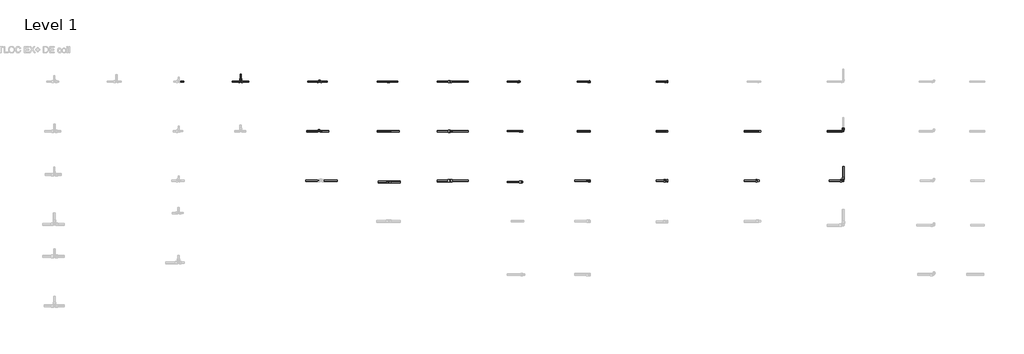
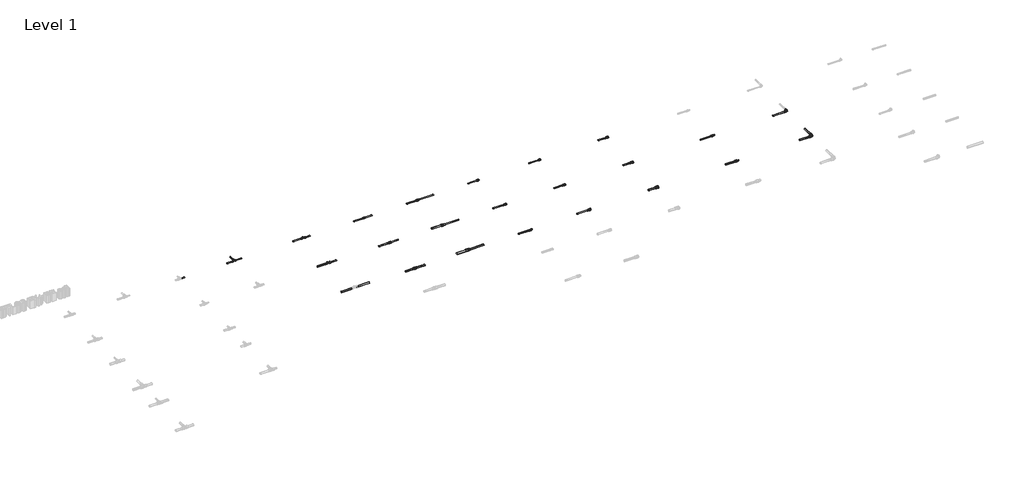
# One storey, part 14 of 16: 36 pipe segments, 22 pipe fittings.
"""IFC4 building model written with IfcOpenShell, lengths in millimetres."""

from ifc_helpers import new_model, si_unit, point, frame, frame_2d, origin, place, context, project, spatial, circle_curve, trimmed, segment, composite_curve, outline, extrude, transform, mapped, element, save
from components import pipe_fitting_41a35f07, pipe_fitting_bbd05bdc, pipe_fitting_792dd94b, pipe_fitting_a5f7744a, pipe_fitting_027be69e, pipe_fitting_e3b44c6b, pipe_fitting_f9f4b2e9, pipe_fitting_1d22680d, pipe_fitting_5e3c5755, pipe_fitting_6195120d, pipe_fitting_382bea88, pipe_fitting_a8691e68, pipe_fitting_006a9863, pipe_fitting_3eb6683a, pipe_fitting_836a2278, pipe_fitting_164b9098, pipe_fitting_15655edc, pipe_fitting_ca26b6f5, pipe_fitting_c518d98d, pipe_fitting_b7086254, pipe_fitting_f7ee4d9f, pipe_fitting_f8d70d0e

model = new_model("IFC4")

# Units and contexts
model_context = context("Model", 3, world=origin())
ifc_project = project(units=[si_unit("LENGTHUNIT", "METRE", prefix="MILLI")], contexts=[model_context])

# Site, building, storey
site = spatial("IfcSite", under=ifc_project)
building = spatial("IfcBuilding", under=site)
storey = spatial("IfcBuildingStorey", under=building, Name="Level 1", Elevation=0.0)

# Pipe fittings
placement = place(None, origin())
pipe_fitting_shape = pipe_fitting_41a35f07(model_context)
element("IfcPipeFitting", 1, ObjectType="FASTLOC_Adapter_RX+, with external thread : FSL A C external EX+ DE", at=placement, inside=storey, context=model_context, shape_type="MappedRepresentation", body=[
    mapped(pipe_fitting_shape, transform((37480.5062975, 1212.3520033, 0.0), x_axis=(1.0, 0.0, 0.0), y_axis=(0.0, 1.0, 0.0), z_axis=(0.0, 0.0, 1.0))),
])
pipe_fitting_2_shape = pipe_fitting_bbd05bdc(model_context)
element("IfcPipeFitting", 2, ObjectType="FASTLOC_Adapter_RX+, with external thread : FSL A C external EX+ DE", at=placement, inside=storey, context=model_context, shape_type="MappedRepresentation", body=[
    mapped(pipe_fitting_2_shape, transform((37490.6359613, 393.645754, 0.0), x_axis=(1.0, 0.0, 0.0), y_axis=(0.0, 1.0, 0.0), z_axis=(0.0, 0.0, 1.0))),
])
pipe_fitting_3_shape = pipe_fitting_792dd94b(model_context)
element("IfcPipeFitting", 3, ObjectType="FASTLOC_Corner EX+ : FSL C EX+ DE", at=placement, inside=storey, context=model_context, shape_type="MappedRepresentation", body=[
    mapped(pipe_fitting_3_shape, transform((42675.3824015, 1212.3520033, 0.0), x_axis=(1.0, 0.0, 0.0), y_axis=(0.0, 1.0, 0.0), z_axis=(0.0, 0.0, 1.0))),
])
pipe_fitting_4_shape = pipe_fitting_a5f7744a(model_context)
element("IfcPipeFitting", 4, ObjectType="FASTLOC_Corner EX+ : FSL C EX+ DE", at=placement, inside=storey, context=model_context, shape_type="MappedRepresentation", body=[
    mapped(pipe_fitting_4_shape, transform((42675.3824015, 412.3520033, 0.0), x_axis=(1.0, 0.0, 0.0), y_axis=(0.0, 1.0, 0.0), z_axis=(0.0, 0.0, 1.0))),
])
pipe_fitting_5_shape = pipe_fitting_027be69e(model_context)
element("IfcPipeFitting", 5, ObjectType="FASTLOC_Coupling equal EX+ : FSL C EQ EX+ DE", at=placement, inside=storey, context=model_context, shape_type="MappedRepresentation", body=[
    mapped(pipe_fitting_5_shape, transform((35347.6401575, 2012.3520033, 0.0), x_axis=(1.0, 0.0, 0.0), y_axis=(0.0, 1.0, 0.0), z_axis=(0.0, 0.0, 1.0))),
])
pipe_fitting_6_shape = pipe_fitting_e3b44c6b(model_context)
element("IfcPipeFitting", 6, ObjectType="FASTLOC_T-piece internal thread EX+ : FSL T thread EX+ DE", at=placement, inside=storey, context=model_context, shape_type="MappedRepresentation", body=[
    mapped(pipe_fitting_6_shape, transform((34223.972973, 1212.3520033, 0.0), x_axis=(1.0, 0.0, 0.0), y_axis=(0.0, 1.0, 0.0), z_axis=(0.0, 0.0, 1.0))),
])
pipe_fitting_7_shape = pipe_fitting_f9f4b2e9(model_context)
element("IfcPipeFitting", 7, ObjectType="FASTLOC_Coupling reduced EX+ : FSL C RE EX+ DE", at=placement, inside=storey, context=model_context, shape_type="MappedRepresentation", body=[
    mapped(pipe_fitting_7_shape, transform((36342.2258143, 1212.3520033, 0.0), x_axis=(1.0, 0.0, 0.0), y_axis=(0.0, 1.0, 0.0), z_axis=(0.0, 0.0, 1.0))),
])
pipe_fitting_8_shape = pipe_fitting_1d22680d(model_context)
element("IfcPipeFitting", 8, ObjectType="FASTLOC_Coupling equal EX+ : FSL C EQ EX+ DE", at=placement, inside=storey, context=model_context, shape_type="MappedRepresentation", body=[
    mapped(pipe_fitting_8_shape, transform((35347.6401575, 1212.3520033, 0.0), x_axis=(1.0, 0.0, 0.0), y_axis=(0.0, 1.0, 0.0), z_axis=(0.0, 0.0, 1.0))),
])
pipe_fitting_9_shape = pipe_fitting_5e3c5755(model_context)
element("IfcPipeFitting", 9, ObjectType="FASTLOC_Coupling equal EX+ : FSL C EQ EX+ DE", at=placement, inside=storey, context=model_context, shape_type="MappedRepresentation", body=[
    mapped(pipe_fitting_9_shape, transform((35347.6401575, 393.645754, 0.0), x_axis=(1.0, 0.0, 0.0), y_axis=(0.0, 1.0, 0.0), z_axis=(0.0, 0.0, 1.0))),
])
pipe_fitting_10_shape = pipe_fitting_6195120d(model_context)
element("IfcPipeFitting", 10, ObjectType="FASTLOC_Coupling reduced EX+ : FSL C RE EX+ DE", at=placement, inside=storey, context=model_context, shape_type="MappedRepresentation", body=[
    mapped(pipe_fitting_10_shape, transform((36342.2258143, 2012.3520033, 0.0), x_axis=(1.0, 0.0, 0.0), y_axis=(0.0, 1.0, 0.0), z_axis=(0.0, 0.0, 1.0))),
])
pipe_fitting_11_shape = pipe_fitting_382bea88(model_context)
element("IfcPipeFitting", 11, ObjectType="FASTLOC_Coupling reduced EX+ : FSL C RE EX+ DE", at=placement, inside=storey, context=model_context, shape_type="MappedRepresentation", body=[
    mapped(pipe_fitting_11_shape, transform((36342.2258143, 412.3520033, 0.0), x_axis=(1.0, 0.0, 0.0), y_axis=(0.0, 1.0, 0.0), z_axis=(0.0, 0.0, 1.0))),
])
pipe_fitting_12_shape = pipe_fitting_a8691e68(model_context)
element("IfcPipeFitting", 12, ObjectType="FASTLOC_Adapter_RX+, with external thread : FSL A C external EX+ DE", at=placement, inside=storey, context=model_context, shape_type="MappedRepresentation", body=[
    mapped(pipe_fitting_12_shape, transform((37445.0524741, 2012.3520033, 0.0), x_axis=(1.0, 0.0, 0.0), y_axis=(0.0, 1.0, 0.0), z_axis=(0.0, 0.0, 1.0))),
])
pipe_fitting_13_shape = pipe_fitting_006a9863(model_context)
element("IfcPipeFitting", 13, ObjectType="FASTLOC_T-piece_EX+ : FSL T-Piece EX+ DE", at=placement, inside=storey, context=model_context, shape_type="MappedRepresentation", body=[
    mapped(pipe_fitting_13_shape, transform((32962.9146925, 2012.3520033, 0.0), x_axis=(1.0, 0.0, 0.0), y_axis=(0.0, 1.0, 0.0), z_axis=(0.0, 0.0, 1.0))),
])
pipe_fitting_14_shape = pipe_fitting_3eb6683a(model_context)
element("IfcPipeFitting", 14, ObjectType="FASTLOC_T-piece internal thread EX+ : FSL T thread EX+ DE", at=placement, inside=storey, context=model_context, shape_type="MappedRepresentation", body=[
    mapped(pipe_fitting_14_shape, transform((34234.0203333, 2012.3520033, 0.0), x_axis=(1.0, 0.0, 0.0), y_axis=(0.0, 1.0, 0.0), z_axis=(0.0, 0.0, 1.0))),
])
pipe_fitting_15_shape = pipe_fitting_836a2278(model_context)
element("IfcPipeFitting", 15, ObjectType="FASTLOC_Adapter_EX+, with internal thread : FSL A internal DE", at=placement, inside=storey, context=model_context, shape_type="MappedRepresentation", body=[
    mapped(pipe_fitting_15_shape, transform((38579.5143796, 2012.3520033, 0.0), x_axis=(1.0, 0.0, 0.0), y_axis=(0.0, 1.0, 0.0), z_axis=(0.0, 0.0, 1.0))),
])
pipe_fitting_16_shape = pipe_fitting_164b9098(model_context)
element("IfcPipeFitting", 16, ObjectType="FASTLOC Copper press adapter RX+ : FSL RX+ DE", at=placement, inside=storey, context=model_context, shape_type="MappedRepresentation", body=[
    mapped(pipe_fitting_16_shape, transform((41315.3824015, 1212.3520033, 0.0), x_axis=(1.0, 0.0, 0.0), y_axis=(0.0, 1.0, 0.0), z_axis=(0.0, 0.0, 1.0))),
])
pipe_fitting_17_shape = pipe_fitting_15655edc(model_context)
element("IfcPipeFitting", 17, ObjectType="FASTLOC Copper press adapter RX+ : FSL RX+ DE", at=placement, inside=storey, context=model_context, shape_type="MappedRepresentation", body=[
    mapped(pipe_fitting_17_shape, transform((41295.3824015, 412.3520033, 0.0), x_axis=(1.0, 0.0, 0.0), y_axis=(0.0, 1.0, 0.0), z_axis=(0.0, 0.0, 1.0))),
])
pipe_fitting_18_shape = pipe_fitting_ca26b6f5(model_context)
element("IfcPipeFitting", 18, ObjectType="FASTLOC_Adapter with union nut EX+ : FSL A union nut EX+ DE", at=placement, inside=storey, context=model_context, shape_type="MappedRepresentation", body=[
    mapped(pipe_fitting_18_shape, transform((39818.3503777, 2012.3520033, 0.0), x_axis=(1.0, 0.0, 0.0), y_axis=(0.0, 1.0, 0.0), z_axis=(0.0, 0.0, 1.0))),
])
pipe_fitting_19_shape = pipe_fitting_c518d98d(model_context)
element("IfcPipeFitting", 19, ObjectType="FASTLOC_Adapter with union nut EX+ : FSL A union nut EX+ DE", at=placement, inside=storey, context=model_context, shape_type="MappedRepresentation", body=[
    mapped(pipe_fitting_19_shape, transform((39818.3503777, 1212.3520033, 0.0), x_axis=(1.0, 0.0, 0.0), y_axis=(0.0, 1.0, 0.0), z_axis=(0.0, 0.0, 1.0))),
])
pipe_fitting_20_shape = pipe_fitting_b7086254(model_context)
element("IfcPipeFitting", 20, ObjectType="FASTLOC_Adapter with union nut EX+ : FSL A union nut EX+ DE", at=placement, inside=storey, context=model_context, shape_type="MappedRepresentation", body=[
    mapped(pipe_fitting_20_shape, transform((39818.3503777, 412.3520033, 0.0), x_axis=(1.0, 0.0, 0.0), y_axis=(0.0, 1.0, 0.0), z_axis=(0.0, 0.0, 1.0))),
])
pipe_fitting_21_shape = pipe_fitting_f7ee4d9f(model_context)
element("IfcPipeFitting", 21, ObjectType="FASTLOC_Adapter_EX+, with internal thread : FSL A internal DE", at=placement, inside=storey, context=model_context, shape_type="MappedRepresentation", body=[
    mapped(pipe_fitting_21_shape, transform((38579.5143796, 1212.3520033, 0.0), x_axis=(1.0, 0.0, 0.0), y_axis=(0.0, 1.0, 0.0), z_axis=(0.0, 0.0, 1.0))),
])
pipe_fitting_22_shape = pipe_fitting_f8d70d0e(model_context)
element("IfcPipeFitting", 22, ObjectType="FASTLOC_Adapter_EX+, with internal thread : FSL A internal DE", at=placement, inside=storey, context=model_context, shape_type="MappedRepresentation", body=[
    mapped(pipe_fitting_22_shape, transform((38579.5143796, 412.3520033, 0.0), x_axis=(1.0, 0.0, 0.0), y_axis=(0.0, 1.0, 0.0), z_axis=(0.0, 0.0, 1.0))),
])

# Pipe segments
element("IfcPipeSegment", 23, ObjectType="FASTLOC EX+ ML DE coil", at=placement, inside=storey, context=model_context, shape_type="SweptSolid", body=[
    extrude(outline(composite_curve([segment(trimmed(circle_curve(frame_2d((1212.3520033, 0.0)), 10.0), [point((1222.3520033, 0.0))], [point((1212.3520033, -10.0))], False, "CARTESIAN"), True, "CONTINUOUS"), segment(trimmed(circle_curve(frame_2d((1212.3520033, 0.0)), 10.0), [point((1212.3520033, -10.0))], [point((1202.3520033, 0.0))], False, "CARTESIAN"), True, "CONTINUOUS"), segment(trimmed(circle_curve(frame_2d((1212.3520033, 0.0)), 10.0), [point((1202.3520033, 0.0))], [point((1212.3520033, 10.0))], False, "CARTESIAN"), True, "CONTINUOUS"), segment(trimmed(circle_curve(frame_2d((1212.3520033, 0.0)), 10.0), [point((1212.3520033, 10.0))], [point((1222.3520033, 0.0))], False, "CARTESIAN"), True, "CONTINUOUS")], self_intersect=False)), frame((42413.2824015, 0.0, 0.0), z_axis=(1.0, 0.0, 0.0), x_axis=(0.0, 1.0, 0.0)), (0.0, 0.0, 1.0), 237.5),
])
element("IfcPipeSegment", 24, ObjectType="FASTLOC EX+ ML DE coil", at=placement, inside=storey, context=model_context, shape_type="SweptSolid", body=[
    extrude(outline(composite_curve([segment(trimmed(circle_curve(frame_2d((0.0, 42675.3824015)), 12.5), [point((0.0, 42687.8824015))], [point((12.5, 42675.3824015))], False, "CARTESIAN"), True, "CONTINUOUS"), segment(trimmed(circle_curve(frame_2d((0.0, 42675.3824015)), 12.5), [point((12.5, 42675.3824015))], [point((0.0, 42662.8824015))], False, "CARTESIAN"), True, "CONTINUOUS"), segment(trimmed(circle_curve(frame_2d((0.0, 42675.3824015)), 12.5), [point((0.0, 42662.8824015))], [point((-12.5, 42675.3824015))], False, "CARTESIAN"), True, "CONTINUOUS"), segment(trimmed(circle_curve(frame_2d((0.0, 42675.3824015)), 12.5), [point((-12.5, 42675.3824015))], [point((0.0, 42687.8824015))], False, "CARTESIAN"), True, "CONTINUOUS")], self_intersect=False)), frame((0.0, 441.3520033, 0.0), z_axis=(0.0, 1.0, 0.0), x_axis=(0.0, 0.0, 1.0)), (0.0, 0.0, 1.0), 200.0),
])
element("IfcPipeSegment", 25, ObjectType="FASTLOC EX+ ML DE coil", at=placement, inside=storey, context=model_context, shape_type="SweptSolid", body=[
    extrude(outline(composite_curve([segment(trimmed(circle_curve(frame_2d((412.3520033, 0.0)), 12.5), [point((424.8520033, 0.0))], [point((412.3520033, -12.5))], False, "CARTESIAN"), True, "CONTINUOUS"), segment(trimmed(circle_curve(frame_2d((412.3520033, 0.0)), 12.5), [point((412.3520033, -12.5))], [point((399.8520033, 0.0))], False, "CARTESIAN"), True, "CONTINUOUS"), segment(trimmed(circle_curve(frame_2d((412.3520033, 0.0)), 12.5), [point((399.8520033, 0.0))], [point((412.3520033, 12.5))], False, "CARTESIAN"), True, "CONTINUOUS"), segment(trimmed(circle_curve(frame_2d((412.3520033, 0.0)), 12.5), [point((412.3520033, 12.5))], [point((424.8520033, 0.0))], False, "CARTESIAN"), True, "CONTINUOUS")], self_intersect=False)), frame((42446.3824015, 0.0, 0.0), z_axis=(1.0, 0.0, 0.0), x_axis=(0.0, 1.0, 0.0)), (0.0, 0.0, 1.0), 200.0),
])
element("IfcPipeSegment", 26, ObjectType="FASTLOC EX+ ML DE coil", at=placement, inside=storey, context=model_context, shape_type="SweptSolid", body=[
    extrude(outline(composite_curve([segment(trimmed(circle_curve(frame_2d((412.3520033, 0.0)), 12.5), [point((424.8520033, 0.0))], [point((412.3520033, -12.5))], False, "CARTESIAN"), True, "CONTINUOUS"), segment(trimmed(circle_curve(frame_2d((412.3520033, 0.0)), 12.5), [point((412.3520033, -12.5))], [point((399.8520033, 0.0))], False, "CARTESIAN"), True, "CONTINUOUS"), segment(trimmed(circle_curve(frame_2d((412.3520033, 0.0)), 12.5), [point((399.8520033, 0.0))], [point((412.3520033, 12.5))], False, "CARTESIAN"), True, "CONTINUOUS"), segment(trimmed(circle_curve(frame_2d((412.3520033, 0.0)), 12.5), [point((412.3520033, 12.5))], [point((424.8520033, 0.0))], False, "CARTESIAN"), True, "CONTINUOUS")], self_intersect=False)), frame((41082.2824015, 0.0, 0.0), z_axis=(1.0, 0.0, 0.0), x_axis=(0.0, 1.0, 0.0)), (0.0, 0.0, 1.0), 202.5),
])
element("IfcPipeSegment", 27, ObjectType="FASTLOC EX+ ML DE coil", at=placement, inside=storey, context=model_context, shape_type="SweptSolid", body=[
    extrude(outline(composite_curve([segment(trimmed(circle_curve(frame_2d((1212.3520033, 0.0)), 10.0), [point((1222.3520033, 0.0))], [point((1212.3520033, -10.0))], False, "CARTESIAN"), True, "CONTINUOUS"), segment(trimmed(circle_curve(frame_2d((1212.3520033, 0.0)), 10.0), [point((1212.3520033, -10.0))], [point((1202.3520033, 0.0))], False, "CARTESIAN"), True, "CONTINUOUS"), segment(trimmed(circle_curve(frame_2d((1212.3520033, 0.0)), 10.0), [point((1202.3520033, 0.0))], [point((1212.3520033, 10.0))], False, "CARTESIAN"), True, "CONTINUOUS"), segment(trimmed(circle_curve(frame_2d((1212.3520033, 0.0)), 10.0), [point((1212.3520033, 10.0))], [point((1222.3520033, 0.0))], False, "CARTESIAN"), True, "CONTINUOUS")], self_intersect=False)), frame((41082.2824015, 0.0, 0.0), z_axis=(1.0, 0.0, 0.0), x_axis=(0.0, 1.0, 0.0)), (0.0, 0.0, 1.0), 223.9),
])
element("IfcPipeSegment", 28, ObjectType="FASTLOC EX+ ML DE coil", at=placement, inside=storey, context=model_context, shape_type="SweptSolid", body=[
    extrude(outline(composite_curve([segment(trimmed(circle_curve(frame_2d((2012.3520033, 0.0)), 8.0), [point((2020.3520033, 0.0))], [point((2012.3520033, -8.0))], False, "CARTESIAN"), True, "CONTINUOUS"), segment(trimmed(circle_curve(frame_2d((2012.3520033, 0.0)), 8.0), [point((2012.3520033, -8.0))], [point((2004.3520033, 0.0))], False, "CARTESIAN"), True, "CONTINUOUS"), segment(trimmed(circle_curve(frame_2d((2012.3520033, 0.0)), 8.0), [point((2004.3520033, 0.0))], [point((2012.3520033, 8.0))], False, "CARTESIAN"), True, "CONTINUOUS"), segment(trimmed(circle_curve(frame_2d((2012.3520033, 0.0)), 8.0), [point((2012.3520033, 8.0))], [point((2020.3520033, 0.0))], False, "CARTESIAN"), True, "CONTINUOUS")], self_intersect=False)), frame((39659.3503777, 0.0, 0.0), z_axis=(1.0, 0.0, 0.0), x_axis=(0.0, 1.0, 0.0)), (0.0, 0.0, 1.0), 150.0),
])
element("IfcPipeSegment", 29, ObjectType="FASTLOC EX+ ML DE coil", at=placement, inside=storey, context=model_context, shape_type="SweptSolid", body=[
    extrude(outline(composite_curve([segment(trimmed(circle_curve(frame_2d((1212.3520033, 0.0)), 10.0), [point((1222.3520033, 0.0))], [point((1212.3520033, -10.0))], False, "CARTESIAN"), True, "CONTINUOUS"), segment(trimmed(circle_curve(frame_2d((1212.3520033, 0.0)), 10.0), [point((1212.3520033, -10.0))], [point((1202.3520033, 0.0))], False, "CARTESIAN"), True, "CONTINUOUS"), segment(trimmed(circle_curve(frame_2d((1212.3520033, 0.0)), 10.0), [point((1202.3520033, 0.0))], [point((1212.3520033, 10.0))], False, "CARTESIAN"), True, "CONTINUOUS"), segment(trimmed(circle_curve(frame_2d((1212.3520033, 0.0)), 10.0), [point((1212.3520033, 10.0))], [point((1222.3520033, 0.0))], False, "CARTESIAN"), True, "CONTINUOUS")], self_intersect=False)), frame((39659.3503777, 0.0, 0.0), z_axis=(1.0, 0.0, 0.0), x_axis=(0.0, 1.0, 0.0)), (0.0, 0.0, 1.0), 150.0),
])
element("IfcPipeSegment", 30, ObjectType="FASTLOC EX+ ML DE coil", at=placement, inside=storey, context=model_context, shape_type="SweptSolid", body=[
    extrude(outline(composite_curve([segment(trimmed(circle_curve(frame_2d((412.3520033, 0.0)), 12.5), [point((424.8520033, 0.0))], [point((412.3520033, -12.5))], False, "CARTESIAN"), True, "CONTINUOUS"), segment(trimmed(circle_curve(frame_2d((412.3520033, 0.0)), 12.5), [point((412.3520033, -12.5))], [point((399.8520033, 0.0))], False, "CARTESIAN"), True, "CONTINUOUS"), segment(trimmed(circle_curve(frame_2d((412.3520033, 0.0)), 12.5), [point((399.8520033, 0.0))], [point((412.3520033, 12.5))], False, "CARTESIAN"), True, "CONTINUOUS"), segment(trimmed(circle_curve(frame_2d((412.3520033, 0.0)), 12.5), [point((412.3520033, 12.5))], [point((424.8520033, 0.0))], False, "CARTESIAN"), True, "CONTINUOUS")], self_intersect=False)), frame((39659.3503777, 0.0, 0.0), z_axis=(1.0, 0.0, 0.0), x_axis=(0.0, 1.0, 0.0)), (0.0, 0.0, 1.0), 148.7),
])
element("IfcPipeSegment", 31, ObjectType="FASTLOC EX+ ML DE coil", at=placement, inside=storey, context=model_context, shape_type="SweptSolid", body=[
    extrude(outline(composite_curve([segment(trimmed(circle_curve(frame_2d((2012.3520033, 0.0)), 8.0), [point((2020.3520033, 0.0))], [point((2012.3520033, -8.0))], False, "CARTESIAN"), True, "CONTINUOUS"), segment(trimmed(circle_curve(frame_2d((2012.3520033, 0.0)), 8.0), [point((2012.3520033, -8.0))], [point((2004.3520033, 0.0))], False, "CARTESIAN"), True, "CONTINUOUS"), segment(trimmed(circle_curve(frame_2d((2012.3520033, 0.0)), 8.0), [point((2004.3520033, 0.0))], [point((2012.3520033, 8.0))], False, "CARTESIAN"), True, "CONTINUOUS"), segment(trimmed(circle_curve(frame_2d((2012.3520033, 0.0)), 8.0), [point((2012.3520033, 8.0))], [point((2020.3520033, 0.0))], False, "CARTESIAN"), True, "CONTINUOUS")], self_intersect=False)), frame((38387.1143796, 0.0, 0.0), z_axis=(1.0, 0.0, 0.0), x_axis=(0.0, 1.0, 0.0)), (0.0, 0.0, 1.0), 180.0),
])
element("IfcPipeSegment", 32, ObjectType="FASTLOC EX+ ML DE coil", at=placement, inside=storey, context=model_context, shape_type="SweptSolid", body=[
    extrude(outline(composite_curve([segment(trimmed(circle_curve(frame_2d((1212.3520033, 0.0)), 10.0), [point((1222.3520033, 0.0))], [point((1212.3520033, -10.0))], False, "CARTESIAN"), True, "CONTINUOUS"), segment(trimmed(circle_curve(frame_2d((1212.3520033, 0.0)), 10.0), [point((1212.3520033, -10.0))], [point((1202.3520033, 0.0))], False, "CARTESIAN"), True, "CONTINUOUS"), segment(trimmed(circle_curve(frame_2d((1212.3520033, 0.0)), 10.0), [point((1202.3520033, 0.0))], [point((1212.3520033, 10.0))], False, "CARTESIAN"), True, "CONTINUOUS"), segment(trimmed(circle_curve(frame_2d((1212.3520033, 0.0)), 10.0), [point((1212.3520033, 10.0))], [point((1222.3520033, 0.0))], False, "CARTESIAN"), True, "CONTINUOUS")], self_intersect=False)), frame((38387.1143796, 0.0, 0.0), z_axis=(1.0, 0.0, 0.0), x_axis=(0.0, 1.0, 0.0)), (0.0, 0.0, 1.0), 180.7),
])
element("IfcPipeSegment", 33, ObjectType="FASTLOC EX+ ML DE coil", at=placement, inside=storey, context=model_context, shape_type="SweptSolid", body=[
    extrude(outline(composite_curve([segment(trimmed(circle_curve(frame_2d((412.3520033, 0.0)), 10.0), [point((422.3520033, 0.0))], [point((412.3520033, -10.0))], False, "CARTESIAN"), True, "CONTINUOUS"), segment(trimmed(circle_curve(frame_2d((412.3520033, 0.0)), 10.0), [point((412.3520033, -10.0))], [point((402.3520033, 0.0))], False, "CARTESIAN"), True, "CONTINUOUS"), segment(trimmed(circle_curve(frame_2d((412.3520033, 0.0)), 10.0), [point((402.3520033, 0.0))], [point((412.3520033, 10.0))], False, "CARTESIAN"), True, "CONTINUOUS"), segment(trimmed(circle_curve(frame_2d((412.3520033, 0.0)), 10.0), [point((412.3520033, 10.0))], [point((422.3520033, 0.0))], False, "CARTESIAN"), True, "CONTINUOUS")], self_intersect=False)), frame((38346.2143796, 0.0, 0.0), z_axis=(1.0, 0.0, 0.0), x_axis=(0.0, 1.0, 0.0)), (0.0, 0.0, 1.0), 220.0),
])
element("IfcPipeSegment", 34, ObjectType="FASTLOC EX+ ML DE coil", at=placement, inside=storey, context=model_context, shape_type="SweptSolid", body=[
    extrude(outline(composite_curve([segment(trimmed(circle_curve(frame_2d((393.645754, 0.0)), 10.0), [point((403.645754, 0.0))], [point((393.645754, -10.0))], False, "CARTESIAN"), True, "CONTINUOUS"), segment(trimmed(circle_curve(frame_2d((393.645754, 0.0)), 10.0), [point((393.645754, -10.0))], [point((383.645754, 0.0))], False, "CARTESIAN"), True, "CONTINUOUS"), segment(trimmed(circle_curve(frame_2d((393.645754, 0.0)), 10.0), [point((383.645754, 0.0))], [point((393.645754, 10.0))], False, "CARTESIAN"), True, "CONTINUOUS"), segment(trimmed(circle_curve(frame_2d((393.645754, 0.0)), 10.0), [point((393.645754, 10.0))], [point((403.645754, 0.0))], False, "CARTESIAN"), True, "CONTINUOUS")], self_intersect=False)), frame((37261.9359613, 0.0, 0.0), z_axis=(1.0, 0.0, 0.0), x_axis=(0.0, 1.0, 0.0)), (0.0, 0.0, 1.0), 220.0),
])
element("IfcPipeSegment", 35, ObjectType="FASTLOC EX+ ML DE coil", at=placement, inside=storey, context=model_context, shape_type="SweptSolid", body=[
    extrude(outline(composite_curve([segment(trimmed(circle_curve(frame_2d((1212.3520033, 0.0)), 8.0), [point((1220.3520033, 0.0))], [point((1212.3520033, -8.0))], False, "CARTESIAN"), True, "CONTINUOUS"), segment(trimmed(circle_curve(frame_2d((1212.3520033, 0.0)), 8.0), [point((1212.3520033, -8.0))], [point((1204.3520033, 0.0))], False, "CARTESIAN"), True, "CONTINUOUS"), segment(trimmed(circle_curve(frame_2d((1212.3520033, 0.0)), 8.0), [point((1204.3520033, 0.0))], [point((1212.3520033, 8.0))], False, "CARTESIAN"), True, "CONTINUOUS"), segment(trimmed(circle_curve(frame_2d((1212.3520033, 0.0)), 8.0), [point((1212.3520033, 8.0))], [point((1220.3520033, 0.0))], False, "CARTESIAN"), True, "CONTINUOUS")], self_intersect=False)), frame((37261.9359613, 0.0, 0.0), z_axis=(1.0, 0.0, 0.0), x_axis=(0.0, 1.0, 0.0)), (0.0, 0.0, 1.0), 209.6703362),
])
element("IfcPipeSegment", 36, ObjectType="FASTLOC EX+ ML DE coil", at=placement, inside=storey, context=model_context, shape_type="SweptSolid", body=[
    extrude(outline(composite_curve([segment(trimmed(circle_curve(frame_2d((2012.3520033, 0.0)), 8.0), [point((2020.3520033, 0.0))], [point((2012.3520033, -8.0))], False, "CARTESIAN"), True, "CONTINUOUS"), segment(trimmed(circle_curve(frame_2d((2012.3520033, 0.0)), 8.0), [point((2012.3520033, -8.0))], [point((2004.3520033, 0.0))], False, "CARTESIAN"), True, "CONTINUOUS"), segment(trimmed(circle_curve(frame_2d((2012.3520033, 0.0)), 8.0), [point((2004.3520033, 0.0))], [point((2012.3520033, 8.0))], False, "CARTESIAN"), True, "CONTINUOUS"), segment(trimmed(circle_curve(frame_2d((2012.3520033, 0.0)), 8.0), [point((2012.3520033, 8.0))], [point((2020.3520033, 0.0))], False, "CARTESIAN"), True, "CONTINUOUS")], self_intersect=False)), frame((37261.9359613, 0.0, 0.0), z_axis=(1.0, 0.0, 0.0), x_axis=(0.0, 1.0, 0.0)), (0.0, 0.0, 1.0), 174.2165128),
])
element("IfcPipeSegment", 37, ObjectType="FASTLOC EX+ ML DE coil", at=placement, inside=storey, context=model_context, shape_type="SweptSolid", body=[
    extrude(outline(composite_curve([segment(trimmed(circle_curve(frame_2d((2012.3520033, 0.0)), 8.0), [point((2004.3520033, 0.0))], [point((2012.3520033, 8.0))], False, "CARTESIAN"), True, "CONTINUOUS"), segment(trimmed(circle_curve(frame_2d((2012.3520033, 0.0)), 8.0), [point((2012.3520033, 8.0))], [point((2020.3520033, 0.0))], False, "CARTESIAN"), True, "CONTINUOUS"), segment(trimmed(circle_curve(frame_2d((2012.3520033, 0.0)), 8.0), [point((2020.3520033, 0.0))], [point((2012.3520033, -8.0))], False, "CARTESIAN"), True, "CONTINUOUS"), segment(trimmed(circle_curve(frame_2d((2012.3520033, 0.0)), 8.0), [point((2012.3520033, -8.0))], [point((2004.3520033, 0.0))], False, "CARTESIAN"), True, "CONTINUOUS")], self_intersect=False)), frame((35354.8401575, 0.0, 0.0), z_axis=(1.0, 0.0, 0.0), x_axis=(0.0, 1.0, 0.0)), (0.0, 0.0, 1.0), 140.0),
])
element("IfcPipeSegment", 38, ObjectType="FASTLOC EX+ ML DE coil", at=placement, inside=storey, context=model_context, shape_type="SweptSolid", body=[
    extrude(outline(composite_curve([segment(trimmed(circle_curve(frame_2d((2012.3520033, 0.0)), 8.0), [point((2020.3520033, 0.0))], [point((2012.3520033, -8.0))], False, "CARTESIAN"), True, "CONTINUOUS"), segment(trimmed(circle_curve(frame_2d((2012.3520033, 0.0)), 8.0), [point((2012.3520033, -8.0))], [point((2004.3520033, 0.0))], False, "CARTESIAN"), True, "CONTINUOUS"), segment(trimmed(circle_curve(frame_2d((2012.3520033, 0.0)), 8.0), [point((2004.3520033, 0.0))], [point((2012.3520033, 8.0))], False, "CARTESIAN"), True, "CONTINUOUS"), segment(trimmed(circle_curve(frame_2d((2012.3520033, 0.0)), 8.0), [point((2012.3520033, 8.0))], [point((2020.3520033, 0.0))], False, "CARTESIAN"), True, "CONTINUOUS")], self_intersect=False)), frame((35160.4401575, 0.0, 0.0), z_axis=(1.0, 0.0, 0.0), x_axis=(0.0, 1.0, 0.0)), (0.0, 0.0, 1.0), 180.0),
])
element("IfcPipeSegment", 39, ObjectType="FASTLOC EX+ ML DE coil", at=placement, inside=storey, context=model_context, shape_type="SweptSolid", body=[
    extrude(outline(composite_curve([segment(trimmed(circle_curve(frame_2d((1212.3520033, 0.0)), 10.0), [point((1202.3520033, 0.0))], [point((1212.3520033, 10.0))], False, "CARTESIAN"), True, "CONTINUOUS"), segment(trimmed(circle_curve(frame_2d((1212.3520033, 0.0)), 10.0), [point((1212.3520033, 10.0))], [point((1222.3520033, 0.0))], False, "CARTESIAN"), True, "CONTINUOUS"), segment(trimmed(circle_curve(frame_2d((1212.3520033, 0.0)), 10.0), [point((1222.3520033, 0.0))], [point((1212.3520033, -10.0))], False, "CARTESIAN"), True, "CONTINUOUS"), segment(trimmed(circle_curve(frame_2d((1212.3520033, 0.0)), 10.0), [point((1212.3520033, -10.0))], [point((1202.3520033, 0.0))], False, "CARTESIAN"), True, "CONTINUOUS")], self_intersect=False)), frame((35355.0401575, 0.0, 0.0), z_axis=(1.0, 0.0, 0.0), x_axis=(0.0, 1.0, 0.0)), (0.0, 0.0, 1.0), 160.0),
])
element("IfcPipeSegment", 40, ObjectType="FASTLOC EX+ ML DE coil", at=placement, inside=storey, context=model_context, shape_type="SweptSolid", body=[
    extrude(outline(composite_curve([segment(trimmed(circle_curve(frame_2d((1212.3520033, 0.0)), 10.0), [point((1222.3520033, 0.0))], [point((1212.3520033, -10.0))], False, "CARTESIAN"), True, "CONTINUOUS"), segment(trimmed(circle_curve(frame_2d((1212.3520033, 0.0)), 10.0), [point((1212.3520033, -10.0))], [point((1202.3520033, 0.0))], False, "CARTESIAN"), True, "CONTINUOUS"), segment(trimmed(circle_curve(frame_2d((1212.3520033, 0.0)), 10.0), [point((1202.3520033, 0.0))], [point((1212.3520033, 10.0))], False, "CARTESIAN"), True, "CONTINUOUS"), segment(trimmed(circle_curve(frame_2d((1212.3520033, 0.0)), 10.0), [point((1212.3520033, 10.0))], [point((1222.3520033, 0.0))], False, "CARTESIAN"), True, "CONTINUOUS")], self_intersect=False)), frame((35160.4401575, 0.0, 0.0), z_axis=(1.0, 0.0, 0.0), x_axis=(0.0, 1.0, 0.0)), (0.0, 0.0, 1.0), 179.8),
])
element("IfcPipeSegment", 41, ObjectType="FASTLOC EX+ ML DE coil", at=placement, inside=storey, context=model_context, shape_type="SweptSolid", body=[
    extrude(outline(composite_curve([segment(trimmed(circle_curve(frame_2d((393.645754, 0.0)), 12.5), [point((381.145754, 0.0))], [point((393.645754, 12.5))], False, "CARTESIAN"), True, "CONTINUOUS"), segment(trimmed(circle_curve(frame_2d((393.645754, 0.0)), 12.5), [point((393.645754, 12.5))], [point((406.145754, 0.0))], False, "CARTESIAN"), True, "CONTINUOUS"), segment(trimmed(circle_curve(frame_2d((393.645754, 0.0)), 12.5), [point((406.145754, 0.0))], [point((393.645754, -12.5))], False, "CARTESIAN"), True, "CONTINUOUS"), segment(trimmed(circle_curve(frame_2d((393.645754, 0.0)), 12.5), [point((393.645754, -12.5))], [point((381.145754, 0.0))], False, "CARTESIAN"), True, "CONTINUOUS")], self_intersect=False)), frame((35355.6401575, 0.0, 0.0), z_axis=(1.0, 0.0, 0.0), x_axis=(0.0, 1.0, 0.0)), (0.0, 0.0, 1.0), 180.0),
])
element("IfcPipeSegment", 42, ObjectType="FASTLOC EX+ ML DE coil", at=placement, inside=storey, context=model_context, shape_type="SweptSolid", body=[
    extrude(outline(composite_curve([segment(trimmed(circle_curve(frame_2d((393.645754, 0.0)), 12.5), [point((406.145754, 0.0))], [point((393.645754, -12.5))], False, "CARTESIAN"), True, "CONTINUOUS"), segment(trimmed(circle_curve(frame_2d((393.645754, 0.0)), 12.5), [point((393.645754, -12.5))], [point((381.145754, 0.0))], False, "CARTESIAN"), True, "CONTINUOUS"), segment(trimmed(circle_curve(frame_2d((393.645754, 0.0)), 12.5), [point((381.145754, 0.0))], [point((393.645754, 12.5))], False, "CARTESIAN"), True, "CONTINUOUS"), segment(trimmed(circle_curve(frame_2d((393.645754, 0.0)), 12.5), [point((393.645754, 12.5))], [point((406.145754, 0.0))], False, "CARTESIAN"), True, "CONTINUOUS")], self_intersect=False)), frame((35179.6401575, 0.0, 0.0), z_axis=(1.0, 0.0, 0.0), x_axis=(0.0, 1.0, 0.0)), (0.0, 0.0, 1.0), 160.0),
])
element("IfcPipeSegment", 43, ObjectType="FASTLOC EX+ ML DE coil", at=placement, inside=storey, context=model_context, shape_type="SweptSolid", body=[
    extrude(outline(composite_curve([segment(trimmed(circle_curve(frame_2d((412.3520033, 0.0)), 12.5), [point((399.8520033, 0.0))], [point((412.3520033, 12.5))], False, "CARTESIAN"), True, "CONTINUOUS"), segment(trimmed(circle_curve(frame_2d((412.3520033, 0.0)), 12.5), [point((412.3520033, 12.5))], [point((424.8520033, 0.0))], False, "CARTESIAN"), True, "CONTINUOUS"), segment(trimmed(circle_curve(frame_2d((412.3520033, 0.0)), 12.5), [point((424.8520033, 0.0))], [point((412.3520033, -12.5))], False, "CARTESIAN"), True, "CONTINUOUS"), segment(trimmed(circle_curve(frame_2d((412.3520033, 0.0)), 12.5), [point((412.3520033, -12.5))], [point((399.8520033, 0.0))], False, "CARTESIAN"), True, "CONTINUOUS")], self_intersect=False)), frame((34281.6423493, 0.0, 0.0), z_axis=(1.0, 0.0, 0.0), x_axis=(0.0, 1.0, 0.0)), (0.0, 0.0, 1.0), 240.0),
])
element("IfcPipeSegment", 44, ObjectType="FASTLOC EX+ ML DE coil", at=placement, inside=storey, context=model_context, shape_type="SweptSolid", body=[
    extrude(outline(composite_curve([segment(trimmed(circle_curve(frame_2d((412.3520033, 0.0)), 12.5), [point((424.8520033, 0.0))], [point((412.3520033, -12.5))], False, "CARTESIAN"), True, "CONTINUOUS"), segment(trimmed(circle_curve(frame_2d((412.3520033, 0.0)), 12.5), [point((412.3520033, -12.5))], [point((399.8520033, 0.0))], False, "CARTESIAN"), True, "CONTINUOUS"), segment(trimmed(circle_curve(frame_2d((412.3520033, 0.0)), 12.5), [point((399.8520033, 0.0))], [point((412.3520033, 12.5))], False, "CARTESIAN"), True, "CONTINUOUS"), segment(trimmed(circle_curve(frame_2d((412.3520033, 0.0)), 12.5), [point((412.3520033, 12.5))], [point((424.8520033, 0.0))], False, "CARTESIAN"), True, "CONTINUOUS")], self_intersect=False)), frame((34008.2423493, 0.0, 0.0), z_axis=(1.0, 0.0, 0.0), x_axis=(0.0, 1.0, 0.0)), (0.0, 0.0, 1.0), 220.0),
])
element("IfcPipeSegment", 45, ObjectType="FASTLOC EX+ ML DE coil", at=placement, inside=storey, context=model_context, shape_type="SweptSolid", body=[
    extrude(outline(composite_curve([segment(trimmed(circle_curve(frame_2d((1212.3520033, 0.0)), 10.0), [point((1202.3520033, 0.0))], [point((1212.3520033, 10.0))], False, "CARTESIAN"), True, "CONTINUOUS"), segment(trimmed(circle_curve(frame_2d((1212.3520033, 0.0)), 10.0), [point((1212.3520033, 10.0))], [point((1222.3520033, 0.0))], False, "CARTESIAN"), True, "CONTINUOUS"), segment(trimmed(circle_curve(frame_2d((1212.3520033, 0.0)), 10.0), [point((1222.3520033, 0.0))], [point((1212.3520033, -10.0))], False, "CARTESIAN"), True, "CONTINUOUS"), segment(trimmed(circle_curve(frame_2d((1212.3520033, 0.0)), 10.0), [point((1212.3520033, -10.0))], [point((1202.3520033, 0.0))], False, "CARTESIAN"), True, "CONTINUOUS")], self_intersect=False)), frame((34246.472973, 0.0, 0.0), z_axis=(1.0, 0.0, 0.0), x_axis=(0.0, 1.0, 0.0)), (0.0, 0.0, 1.0), 135.0),
])
element("IfcPipeSegment", 46, ObjectType="FASTLOC EX+ ML DE coil", at=placement, inside=storey, context=model_context, shape_type="SweptSolid", body=[
    extrude(outline(composite_curve([segment(trimmed(circle_curve(frame_2d((1212.3520033, 0.0)), 10.0), [point((1222.3520033, 0.0))], [point((1212.3520033, -10.0))], False, "CARTESIAN"), True, "CONTINUOUS"), segment(trimmed(circle_curve(frame_2d((1212.3520033, 0.0)), 10.0), [point((1212.3520033, -10.0))], [point((1202.3520033, 0.0))], False, "CARTESIAN"), True, "CONTINUOUS"), segment(trimmed(circle_curve(frame_2d((1212.3520033, 0.0)), 10.0), [point((1202.3520033, 0.0))], [point((1212.3520033, 10.0))], False, "CARTESIAN"), True, "CONTINUOUS"), segment(trimmed(circle_curve(frame_2d((1212.3520033, 0.0)), 10.0), [point((1212.3520033, 10.0))], [point((1222.3520033, 0.0))], False, "CARTESIAN"), True, "CONTINUOUS")], self_intersect=False)), frame((34031.472973, 0.0, 0.0), z_axis=(1.0, 0.0, 0.0), x_axis=(0.0, 1.0, 0.0)), (0.0, 0.0, 1.0), 170.0),
])
element("IfcPipeSegment", 47, ObjectType="FASTLOC EX+ ML DE coil", at=placement, inside=storey, context=model_context, shape_type="SweptSolid", body=[
    extrude(outline(composite_curve([segment(trimmed(circle_curve(frame_2d((2012.3520033, 0.0)), 8.0), [point((2004.3520033, 0.0))], [point((2012.3520033, 8.0))], False, "CARTESIAN"), True, "CONTINUOUS"), segment(trimmed(circle_curve(frame_2d((2012.3520033, 0.0)), 8.0), [point((2012.3520033, 8.0))], [point((2020.3520033, 0.0))], False, "CARTESIAN"), True, "CONTINUOUS"), segment(trimmed(circle_curve(frame_2d((2012.3520033, 0.0)), 8.0), [point((2020.3520033, 0.0))], [point((2012.3520033, -8.0))], False, "CARTESIAN"), True, "CONTINUOUS"), segment(trimmed(circle_curve(frame_2d((2012.3520033, 0.0)), 8.0), [point((2012.3520033, -8.0))], [point((2004.3520033, 0.0))], False, "CARTESIAN"), True, "CONTINUOUS")], self_intersect=False)), frame((34256.0203333, 0.0, 0.0), z_axis=(1.0, 0.0, 0.0), x_axis=(0.0, 1.0, 0.0)), (0.0, 0.0, 1.0), 100.0),
])
element("IfcPipeSegment", 48, ObjectType="FASTLOC EX+ ML DE coil", at=placement, inside=storey, context=model_context, shape_type="SweptSolid", body=[
    extrude(outline(composite_curve([segment(trimmed(circle_curve(frame_2d((2012.3520033, 0.0)), 8.0), [point((2020.3520033, 0.0))], [point((2012.3520033, -8.0))], False, "CARTESIAN"), True, "CONTINUOUS"), segment(trimmed(circle_curve(frame_2d((2012.3520033, 0.0)), 8.0), [point((2012.3520033, -8.0))], [point((2004.3520033, 0.0))], False, "CARTESIAN"), True, "CONTINUOUS"), segment(trimmed(circle_curve(frame_2d((2012.3520033, 0.0)), 8.0), [point((2004.3520033, 0.0))], [point((2012.3520033, 8.0))], False, "CARTESIAN"), True, "CONTINUOUS"), segment(trimmed(circle_curve(frame_2d((2012.3520033, 0.0)), 8.0), [point((2012.3520033, 8.0))], [point((2020.3520033, 0.0))], False, "CARTESIAN"), True, "CONTINUOUS")], self_intersect=False)), frame((34042.0203333, 0.0, 0.0), z_axis=(1.0, 0.0, 0.0), x_axis=(0.0, 1.0, 0.0)), (0.0, 0.0, 1.0), 170.0),
])
element("IfcPipeSegment", 49, ObjectType="FASTLOC EX+ ML DE coil", at=placement, inside=storey, context=model_context, shape_type="SweptSolid", body=[
    extrude(outline(composite_curve([segment(trimmed(circle_curve(frame_2d((2012.3520033, 0.0)), 8.0), [point((2004.3520033, 0.0))], [point((2012.3520033, 8.0))], False, "CARTESIAN"), True, "CONTINUOUS"), segment(trimmed(circle_curve(frame_2d((2012.3520033, 0.0)), 8.0), [point((2012.3520033, 8.0))], [point((2020.3520033, 0.0))], False, "CARTESIAN"), True, "CONTINUOUS"), segment(trimmed(circle_curve(frame_2d((2012.3520033, 0.0)), 8.0), [point((2020.3520033, 0.0))], [point((2012.3520033, -8.0))], False, "CARTESIAN"), True, "CONTINUOUS"), segment(trimmed(circle_curve(frame_2d((2012.3520033, 0.0)), 8.0), [point((2012.3520033, -8.0))], [point((2004.3520033, 0.0))], False, "CARTESIAN"), True, "CONTINUOUS")], self_intersect=False)), frame((32979.8146925, 0.0, 0.0), z_axis=(1.0, 0.0, 0.0), x_axis=(0.0, 1.0, 0.0)), (0.0, 0.0, 1.0), 115.34),
])
element("IfcPipeSegment", 50, ObjectType="FASTLOC EX+ ML DE coil", at=placement, inside=storey, context=model_context, shape_type="SweptSolid", body=[
    extrude(outline(composite_curve([segment(trimmed(circle_curve(frame_2d((2012.3520033, 0.0)), 8.0), [point((2020.3520033, 0.0))], [point((2012.3520033, -8.0))], False, "CARTESIAN"), True, "CONTINUOUS"), segment(trimmed(circle_curve(frame_2d((2012.3520033, 0.0)), 8.0), [point((2012.3520033, -8.0))], [point((2004.3520033, 0.0))], False, "CARTESIAN"), True, "CONTINUOUS"), segment(trimmed(circle_curve(frame_2d((2012.3520033, 0.0)), 8.0), [point((2004.3520033, 0.0))], [point((2012.3520033, 8.0))], False, "CARTESIAN"), True, "CONTINUOUS"), segment(trimmed(circle_curve(frame_2d((2012.3520033, 0.0)), 8.0), [point((2012.3520033, 8.0))], [point((2020.3520033, 0.0))], False, "CARTESIAN"), True, "CONTINUOUS")], self_intersect=False)), frame((32826.0146925, 0.0, 0.0), z_axis=(1.0, 0.0, 0.0), x_axis=(0.0, 1.0, 0.0)), (0.0, 0.0, 1.0), 120.0),
])
element("IfcPipeSegment", 51, ObjectType="FASTLOC EX+ ML DE coil", at=placement, inside=storey, context=model_context, shape_type="SweptSolid", body=[
    extrude(outline(composite_curve([segment(trimmed(circle_curve(frame_2d((0.0, 32962.9146925)), 10.0), [point((0.0, 32972.9146925))], [point((10.0, 32962.9146925))], False, "CARTESIAN"), True, "CONTINUOUS"), segment(trimmed(circle_curve(frame_2d((0.0, 32962.9146925)), 10.0), [point((10.0, 32962.9146925))], [point((0.0, 32952.9146925))], False, "CARTESIAN"), True, "CONTINUOUS"), segment(trimmed(circle_curve(frame_2d((0.0, 32962.9146925)), 10.0), [point((0.0, 32952.9146925))], [point((-10.0, 32962.9146925))], False, "CARTESIAN"), True, "CONTINUOUS"), segment(trimmed(circle_curve(frame_2d((0.0, 32962.9146925)), 10.0), [point((-10.0, 32962.9146925))], [point((0.0, 32972.9146925))], False, "CARTESIAN"), True, "CONTINUOUS")], self_intersect=False)), frame((0.0, 2034.6520033, 0.0), z_axis=(0.0, 1.0, 0.0), x_axis=(0.0, 0.0, 1.0)), (0.0, 0.0, 1.0), 100.0),
])
element("IfcPipeSegment", 52, ObjectType="FASTLOC EX+ ML DE coil", at=placement, inside=storey, context=model_context, shape_type="SweptSolid", body=[
    extrude(outline(composite_curve([segment(trimmed(circle_curve(frame_2d((2012.3520033, 0.0)), 8.0), [point((2004.3520033, 0.0))], [point((2012.3520033, 8.0))], False, "CARTESIAN"), True, "CONTINUOUS"), segment(trimmed(circle_curve(frame_2d((2012.3520033, 0.0)), 8.0), [point((2012.3520033, 8.0))], [point((2020.3520033, 0.0))], False, "CARTESIAN"), True, "CONTINUOUS"), segment(trimmed(circle_curve(frame_2d((2012.3520033, 0.0)), 8.0), [point((2020.3520033, 0.0))], [point((2012.3520033, -8.0))], False, "CARTESIAN"), True, "CONTINUOUS"), segment(trimmed(circle_curve(frame_2d((2012.3520033, 0.0)), 8.0), [point((2012.3520033, -8.0))], [point((2004.3520033, 0.0))], False, "CARTESIAN"), True, "CONTINUOUS")], self_intersect=False)), frame((31978.0146925, 0.0, 0.0), z_axis=(1.0, 0.0, 0.0), x_axis=(0.0, 1.0, 0.0)), (0.0, 0.0, 1.0), 65.0),
])
element("IfcPipeSegment", 53, ObjectType="FASTLOC EX+ ML DE coil", at=placement, inside=storey, context=model_context, shape_type="SweptSolid", body=[
    extrude(outline(composite_curve([segment(trimmed(circle_curve(frame_2d((2012.3520033, 0.0)), 8.0), [point((2004.3520033, 0.0))], [point((2012.3520033, 8.0))], False, "CARTESIAN"), True, "CONTINUOUS"), segment(trimmed(circle_curve(frame_2d((2012.3520033, 0.0)), 8.0), [point((2012.3520033, 8.0))], [point((2020.3520033, 0.0))], False, "CARTESIAN"), True, "CONTINUOUS"), segment(trimmed(circle_curve(frame_2d((2012.3520033, 0.0)), 8.0), [point((2020.3520033, 0.0))], [point((2012.3520033, -8.0))], False, "CARTESIAN"), True, "CONTINUOUS"), segment(trimmed(circle_curve(frame_2d((2012.3520033, 0.0)), 8.0), [point((2012.3520033, -8.0))], [point((2004.3520033, 0.0))], False, "CARTESIAN"), True, "CONTINUOUS")], self_intersect=False)), frame((36348.5258143, 0.0, 0.0), z_axis=(1.0, 0.0, 0.0), x_axis=(0.0, 1.0, 0.0)), (0.0, 0.0, 1.0), 280.0),
])
element("IfcPipeSegment", 54, ObjectType="FASTLOC EX+ ML DE coil", at=placement, inside=storey, context=model_context, shape_type="SweptSolid", body=[
    extrude(outline(composite_curve([segment(trimmed(circle_curve(frame_2d((2012.3520033, 0.0)), 10.0), [point((2022.3520033, 0.0))], [point((2012.3520033, -10.0))], False, "CARTESIAN"), True, "CONTINUOUS"), segment(trimmed(circle_curve(frame_2d((2012.3520033, 0.0)), 10.0), [point((2012.3520033, -10.0))], [point((2002.3520033, 0.0))], False, "CARTESIAN"), True, "CONTINUOUS"), segment(trimmed(circle_curve(frame_2d((2012.3520033, 0.0)), 10.0), [point((2002.3520033, 0.0))], [point((2012.3520033, 10.0))], False, "CARTESIAN"), True, "CONTINUOUS"), segment(trimmed(circle_curve(frame_2d((2012.3520033, 0.0)), 10.0), [point((2012.3520033, 10.0))], [point((2022.3520033, 0.0))], False, "CARTESIAN"), True, "CONTINUOUS")], self_intersect=False)), frame((36133.5258143, 0.0, 0.0), z_axis=(1.0, 0.0, 0.0), x_axis=(0.0, 1.0, 0.0)), (0.0, 0.0, 1.0), 200.0),
])
element("IfcPipeSegment", 55, ObjectType="FASTLOC EX+ ML DE coil", at=placement, inside=storey, context=model_context, shape_type="SweptSolid", body=[
    extrude(outline(composite_curve([segment(trimmed(circle_curve(frame_2d((1212.3520033, 0.0)), 10.0), [point((1202.3520033, 0.0))], [point((1212.3520033, 10.0))], False, "CARTESIAN"), True, "CONTINUOUS"), segment(trimmed(circle_curve(frame_2d((1212.3520033, 0.0)), 10.0), [point((1212.3520033, 10.0))], [point((1222.3520033, 0.0))], False, "CARTESIAN"), True, "CONTINUOUS"), segment(trimmed(circle_curve(frame_2d((1212.3520033, 0.0)), 10.0), [point((1222.3520033, 0.0))], [point((1212.3520033, -10.0))], False, "CARTESIAN"), True, "CONTINUOUS"), segment(trimmed(circle_curve(frame_2d((1212.3520033, 0.0)), 10.0), [point((1212.3520033, -10.0))], [point((1202.3520033, 0.0))], False, "CARTESIAN"), True, "CONTINUOUS")], self_intersect=False)), frame((36347.9258143, 0.0, 0.0), z_axis=(1.0, 0.0, 0.0), x_axis=(0.0, 1.0, 0.0)), (0.0, 0.0, 1.0), 280.6),
])
element("IfcPipeSegment", 56, ObjectType="FASTLOC EX+ ML DE coil", at=placement, inside=storey, context=model_context, shape_type="SweptSolid", body=[
    extrude(outline(composite_curve([segment(trimmed(circle_curve(frame_2d((1212.3520033, 0.0)), 12.5), [point((1224.8520033, 0.0))], [point((1212.3520033, -12.5))], False, "CARTESIAN"), True, "CONTINUOUS"), segment(trimmed(circle_curve(frame_2d((1212.3520033, 0.0)), 12.5), [point((1212.3520033, -12.5))], [point((1199.8520033, 0.0))], False, "CARTESIAN"), True, "CONTINUOUS"), segment(trimmed(circle_curve(frame_2d((1212.3520033, 0.0)), 12.5), [point((1199.8520033, 0.0))], [point((1212.3520033, 12.5))], False, "CARTESIAN"), True, "CONTINUOUS"), segment(trimmed(circle_curve(frame_2d((1212.3520033, 0.0)), 12.5), [point((1212.3520033, 12.5))], [point((1224.8520033, 0.0))], False, "CARTESIAN"), True, "CONTINUOUS")], self_intersect=False)), frame((36133.5258143, 0.0, 0.0), z_axis=(1.0, 0.0, 0.0), x_axis=(0.0, 1.0, 0.0)), (0.0, 0.0, 1.0), 198.9),
])
element("IfcPipeSegment", 57, ObjectType="FASTLOC EX+ ML DE coil", at=placement, inside=storey, context=model_context, shape_type="SweptSolid", body=[
    extrude(outline(composite_curve([segment(trimmed(circle_curve(frame_2d((412.3520033, 0.0)), 12.5), [point((399.8520033, 0.0))], [point((412.3520033, 12.5))], False, "CARTESIAN"), True, "CONTINUOUS"), segment(trimmed(circle_curve(frame_2d((412.3520033, 0.0)), 12.5), [point((412.3520033, 12.5))], [point((424.8520033, 0.0))], False, "CARTESIAN"), True, "CONTINUOUS"), segment(trimmed(circle_curve(frame_2d((412.3520033, 0.0)), 12.5), [point((424.8520033, 0.0))], [point((412.3520033, -12.5))], False, "CARTESIAN"), True, "CONTINUOUS"), segment(trimmed(circle_curve(frame_2d((412.3520033, 0.0)), 12.5), [point((412.3520033, -12.5))], [point((399.8520033, 0.0))], False, "CARTESIAN"), True, "CONTINUOUS")], self_intersect=False)), frame((36348.0258143, 0.0, 0.0), z_axis=(1.0, 0.0, 0.0), x_axis=(0.0, 1.0, 0.0)), (0.0, 0.0, 1.0), 280.5),
])
element("IfcPipeSegment", 58, ObjectType="FASTLOC EX+ ML DE coil", at=placement, inside=storey, context=model_context, shape_type="SweptSolid", body=[
    extrude(outline(composite_curve([segment(trimmed(circle_curve(frame_2d((412.3520033, 0.0)), 16.0), [point((428.3520033, 0.0))], [point((412.3520033, -16.0))], False, "CARTESIAN"), True, "CONTINUOUS"), segment(trimmed(circle_curve(frame_2d((412.3520033, 0.0)), 16.0), [point((412.3520033, -16.0))], [point((396.3520033, 0.0))], False, "CARTESIAN"), True, "CONTINUOUS"), segment(trimmed(circle_curve(frame_2d((412.3520033, 0.0)), 16.0), [point((396.3520033, 0.0))], [point((412.3520033, 16.0))], False, "CARTESIAN"), True, "CONTINUOUS"), segment(trimmed(circle_curve(frame_2d((412.3520033, 0.0)), 16.0), [point((412.3520033, 16.0))], [point((428.3520033, 0.0))], False, "CARTESIAN"), True, "CONTINUOUS")], self_intersect=False)), frame((36133.5258143, 0.0, 0.0), z_axis=(1.0, 0.0, 0.0), x_axis=(0.0, 1.0, 0.0)), (0.0, 0.0, 1.0), 196.3),
])

save(model, "model.ifc")
